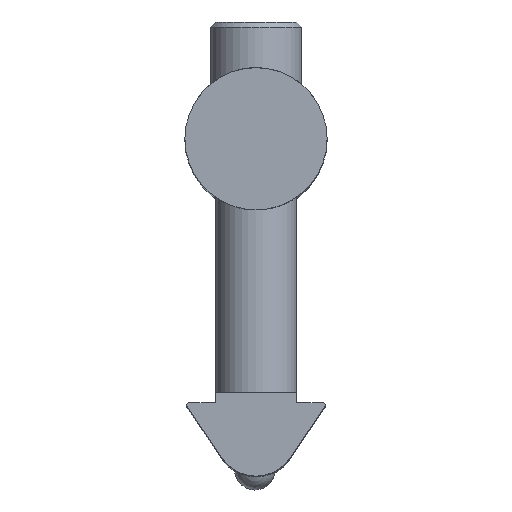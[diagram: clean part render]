
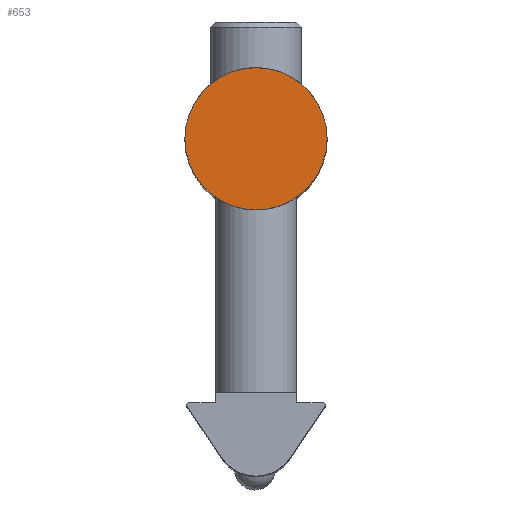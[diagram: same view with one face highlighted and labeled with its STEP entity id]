
A CAD part, top view. The second image highlights one B-rep face of the part: STEP entity #653.
In plain terms, the highlighted planar face has unit normal (0, 0, 1).
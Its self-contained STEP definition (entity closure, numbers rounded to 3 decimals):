
#608=CARTESIAN_POINT('',(7.,0.,80.0));
#609=VERTEX_POINT('',#608);
#610=CARTESIAN_POINT('',(0.0,0.0,80.0));
#611=DIRECTION('',(0.0,0.0,-1.0));
#612=DIRECTION('',(-1.0,0.0,0.0));
#613=AXIS2_PLACEMENT_3D('',#610,#611,#612);
#614=CIRCLE('',#613,7.);
#615=EDGE_CURVE('',#609,#609,#614,.T.);
#645=CARTESIAN_POINT('',(0.0,0.0,80.0));
#646=DIRECTION('',(0.0,0.0,-1.0));
#647=DIRECTION('',(-1.0,0.0,0.0));
#648=AXIS2_PLACEMENT_3D('',#645,#646,#647);
#649=PLANE('',#648);
#650=ORIENTED_EDGE('',*,*,#615,.F.);
#651=EDGE_LOOP('',(#650));
#652=FACE_OUTER_BOUND('',#651,.T.);
#653=ADVANCED_FACE('',(#652),#649,.F.);
